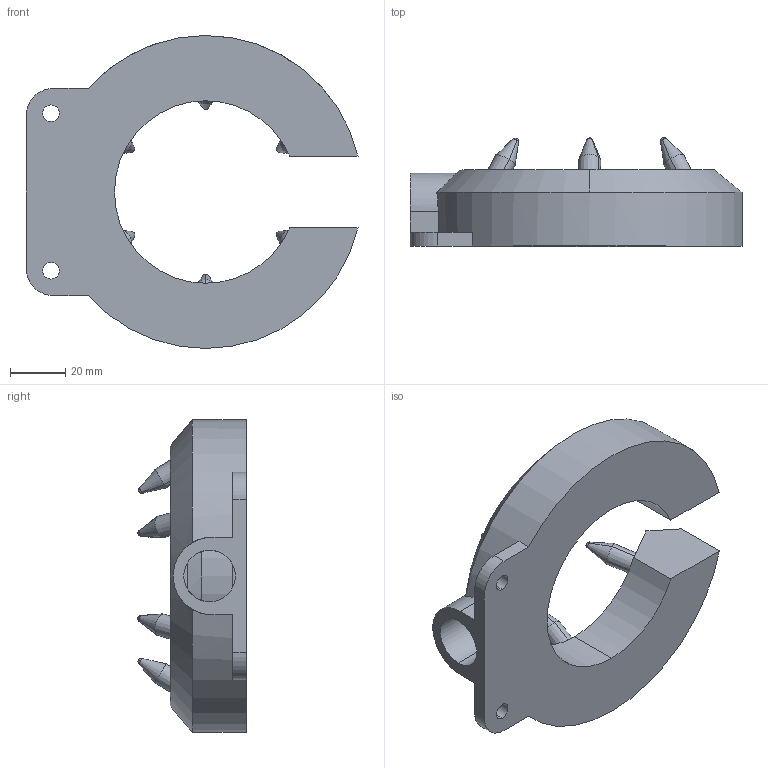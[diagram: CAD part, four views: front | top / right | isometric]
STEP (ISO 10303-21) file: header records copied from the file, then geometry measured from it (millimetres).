
FILE_DESCRIPTION (( 'STEP AP214' ), '1' );
FILE_NAME ('Silvent 453.STEP', '2006-09-26T13:28:51', ( 'Peter' ), ( '' ), 'SwSTEP 2.0', 'SolidWorks 2005204', '' );
FILE_SCHEMA (( 'AUTOMOTIVE_DESIGN' ));
Length unit declared in the file: millimetre
Products named in the file (3): Silvent 453; Silvent 5001; 69054
Assembly tree (7 placements, depth 2):
  Silvent 453
    Silvent 5001  x6
    69054
Bounding box: 120.09 x 39.36 x 113.2 mm (x, y, z)
Volume: 101036.3 mm3; surface area: 44625.6 mm2
Topology: 7 solids, 7 shells, 123 faces, 301 edges, 193 vertices
Faces by surface type: cylinder 45, cone 36, plane 30, sphere 12
Entity records: 3297 total; most frequent: CARTESIAN_POINT 1341, ORIENTED_EDGE 402, DIRECTION 381, EDGE_CURVE 201, AXIS2_PLACEMENT_3D 150, VERTEX_POINT 128, EDGE_LOOP 85, LINE 81
